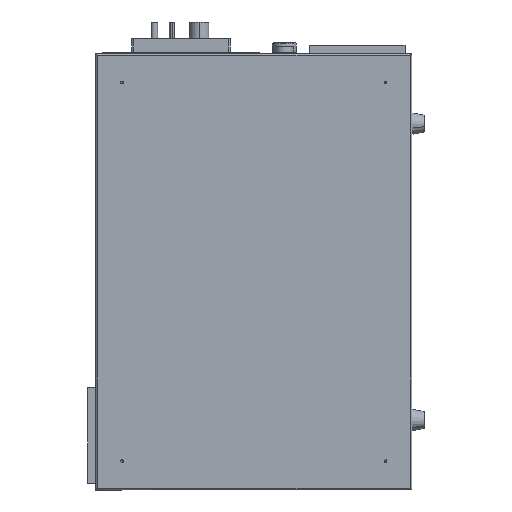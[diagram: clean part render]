
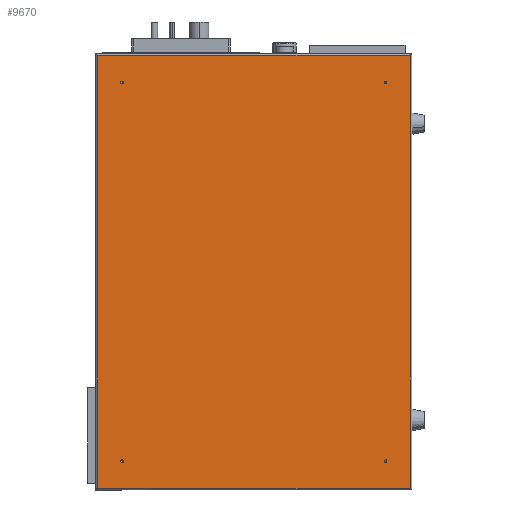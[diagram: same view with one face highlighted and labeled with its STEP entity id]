
A CAD part, front view. The second image highlights one B-rep face of the part: STEP entity #9670.
In plain terms, the highlighted planar face has unit normal (0, -1, 0).
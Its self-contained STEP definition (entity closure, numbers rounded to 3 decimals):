
#426 = EDGE_CURVE ( 'NONE', #7557, #8015, #5370, .T. ) ;
#435 = FACE_BOUND ( 'NONE', #4902, .T. ) ;
#562 = VERTEX_POINT ( 'NONE', #3598 ) ;
#580 = EDGE_CURVE ( 'NONE', #6128, #4621, #1821, .T. ) ;
#836 = AXIS2_PLACEMENT_3D ( 'NONE', #10296, #5368, #7006 ) ;
#1047 = CIRCLE ( 'NONE', #7521, 1.65 ) ;
#1060 = CARTESIAN_POINT ( 'NONE',  ( 189.76, -1.5, -262.76 ) ) ;
#1427 = CIRCLE ( 'NONE', #2246, 1.65 ) ;
#1499 = EDGE_CURVE ( 'NONE', #7576, #2128, #1047, .T. ) ;
#1561 = ORIENTED_EDGE ( 'NONE', *, *, #2083, .F. ) ;
#1650 = VECTOR ( 'NONE', #4617, 1000. ) ;
#1671 = CARTESIAN_POINT ( 'NONE',  ( -160.078, -1.5, -231.722 ) ) ;
#1696 = CIRCLE ( 'NONE', #2396, 1.65 ) ;
#1747 = EDGE_LOOP ( 'NONE', ( #6013, #1871 ) ) ;
#1787 = ORIENTED_EDGE ( 'NONE', *, *, #10443, .T. ) ;
#1821 = LINE ( 'NONE', #2248, #2607 ) ;
#1836 = CARTESIAN_POINT ( 'NONE',  ( -160.078, -1.5, -228.422 ) ) ;
#1838 = DIRECTION ( 'NONE',  ( 0., 0., -1. ) ) ;
#1871 = ORIENTED_EDGE ( 'NONE', *, *, #8430, .F. ) ;
#1886 = CARTESIAN_POINT ( 'NONE',  ( 159.922, -1.5, 229.928 ) ) ;
#1996 = DIRECTION ( 'NONE',  ( 0., 0., -1. ) ) ;
#2030 = VERTEX_POINT ( 'NONE', #1060 ) ;
#2050 = CARTESIAN_POINT ( 'NONE',  ( 159.922, -1.5, -230.072 ) ) ;
#2078 = CARTESIAN_POINT ( 'NONE',  ( 159.922, -1.5, -231.722 ) ) ;
#2083 = EDGE_CURVE ( 'NONE', #2128, #7576, #1427, .T. ) ;
#2128 = VERTEX_POINT ( 'NONE', #10334 ) ;
#2212 = FACE_BOUND ( 'NONE', #2928, .T. ) ;
#2246 = AXIS2_PLACEMENT_3D ( 'NONE', #10150, #2647, #10116 ) ;
#2248 = CARTESIAN_POINT ( 'NONE',  ( -192., -1.5, 262.76 ) ) ;
#2358 = ORIENTED_EDGE ( 'NONE', *, *, #3157, .F. ) ;
#2396 = AXIS2_PLACEMENT_3D ( 'NONE', #8299, #4265, #9196 ) ;
#2478 = DIRECTION ( 'NONE',  ( 0., 0., -1. ) ) ;
#2479 = EDGE_LOOP ( 'NONE', ( #10148, #7892, #1787, #7797 ) ) ;
#2607 = VECTOR ( 'NONE', #10651, 1000. ) ;
#2647 = DIRECTION ( 'NONE',  ( 0., -1., 0. ) ) ;
#2778 = CARTESIAN_POINT ( 'NONE',  ( 0., -1.5, 0. ) ) ;
#2928 = EDGE_LOOP ( 'NONE', ( #7778, #7097 ) ) ;
#3157 = EDGE_CURVE ( 'NONE', #8015, #7557, #1696, .T. ) ;
#3159 = DIRECTION ( 'NONE',  ( 0., -1., 0. ) ) ;
#3502 = DIRECTION ( 'NONE',  ( 0., -1., 0. ) ) ;
#3598 = CARTESIAN_POINT ( 'NONE',  ( 159.922, -1.5, -228.422 ) ) ;
#3658 = DIRECTION ( 'NONE',  ( 0., -1., 0. ) ) ;
#4265 = DIRECTION ( 'NONE',  ( 0., -1., 0. ) ) ;
#4617 = DIRECTION ( 'NONE',  ( 1., 0., 0. ) ) ;
#4621 = VERTEX_POINT ( 'NONE', #5199 ) ;
#4809 = AXIS2_PLACEMENT_3D ( 'NONE', #1886, #3658, #8497 ) ;
#4882 = DIRECTION ( 'NONE',  ( 0., 0., -1. ) ) ;
#4902 = EDGE_LOOP ( 'NONE', ( #2358, #5959 ) ) ;
#4956 = VECTOR ( 'NONE', #6926, 1000. ) ;
#5199 = CARTESIAN_POINT ( 'NONE',  ( -189.76, -1.5, 262.76 ) ) ;
#5223 = CIRCLE ( 'NONE', #4809, 1.65 ) ;
#5368 = DIRECTION ( 'NONE',  ( 0., -1., 0. ) ) ;
#5370 = CIRCLE ( 'NONE', #9099, 1.65 ) ;
#5455 = LINE ( 'NONE', #5561, #1650 ) ;
#5561 = CARTESIAN_POINT ( 'NONE',  ( 192., -1.5, -262.76 ) ) ;
#5564 = CARTESIAN_POINT ( 'NONE',  ( -160.078, -1.5, -230.072 ) ) ;
#5593 = DIRECTION ( 'NONE',  ( 0., -1., 0. ) ) ;
#5641 = CIRCLE ( 'NONE', #9133, 1.65 ) ;
#5814 = EDGE_CURVE ( 'NONE', #6547, #2030, #5455, .T. ) ;
#5959 = ORIENTED_EDGE ( 'NONE', *, *, #426, .F. ) ;
#6013 = ORIENTED_EDGE ( 'NONE', *, *, #9752, .F. ) ;
#6049 = DIRECTION ( 'NONE',  ( 0., -1., 0. ) ) ;
#6126 = FACE_BOUND ( 'NONE', #1747, .T. ) ;
#6128 = VERTEX_POINT ( 'NONE', #7721 ) ;
#6323 = AXIS2_PLACEMENT_3D ( 'NONE', #2050, #7232, #8883 ) ;
#6547 = VERTEX_POINT ( 'NONE', #7515 ) ;
#6707 = EDGE_CURVE ( 'NONE', #4621, #6547, #8882, .T. ) ;
#6926 = DIRECTION ( 'NONE',  ( 0., 0., 1. ) ) ;
#7006 = DIRECTION ( 'NONE',  ( 0., 0., -1. ) ) ;
#7097 = ORIENTED_EDGE ( 'NONE', *, *, #10497, .F. ) ;
#7128 = VERTEX_POINT ( 'NONE', #8066 ) ;
#7232 = DIRECTION ( 'NONE',  ( 0., -1., 0. ) ) ;
#7515 = CARTESIAN_POINT ( 'NONE',  ( -189.76, -1.5, -262.76 ) ) ;
#7519 = VERTEX_POINT ( 'NONE', #10211 ) ;
#7521 = AXIS2_PLACEMENT_3D ( 'NONE', #7703, #3502, #1838 ) ;
#7557 = VERTEX_POINT ( 'NONE', #1836 ) ;
#7576 = VERTEX_POINT ( 'NONE', #9435 ) ;
#7703 = CARTESIAN_POINT ( 'NONE',  ( -160.078, -1.5, 229.928 ) ) ;
#7721 = CARTESIAN_POINT ( 'NONE',  ( 189.76, -1.5, 262.76 ) ) ;
#7778 = ORIENTED_EDGE ( 'NONE', *, *, #10247, .F. ) ;
#7797 = ORIENTED_EDGE ( 'NONE', *, *, #580, .T. ) ;
#7892 = ORIENTED_EDGE ( 'NONE', *, *, #5814, .T. ) ;
#8007 = EDGE_LOOP ( 'NONE', ( #1561, #8851 ) ) ;
#8015 = VERTEX_POINT ( 'NONE', #1671 ) ;
#8044 = CIRCLE ( 'NONE', #6323, 1.65 ) ;
#8052 = DIRECTION ( 'NONE',  ( 0., 0., -1. ) ) ;
#8066 = CARTESIAN_POINT ( 'NONE',  ( 159.922, -1.5, 228.278 ) ) ;
#8097 = CARTESIAN_POINT ( 'NONE',  ( 159.922, -1.5, -230.072 ) ) ;
#8173 = FACE_OUTER_BOUND ( 'NONE', #2479, .T. ) ;
#8299 = CARTESIAN_POINT ( 'NONE',  ( -160.078, -1.5, -230.072 ) ) ;
#8418 = LINE ( 'NONE', #9304, #4956 ) ;
#8430 = EDGE_CURVE ( 'NONE', #562, #8496, #5641, .T. ) ;
#8496 = VERTEX_POINT ( 'NONE', #2078 ) ;
#8497 = DIRECTION ( 'NONE',  ( 0., 0., -1. ) ) ;
#8560 = FACE_BOUND ( 'NONE', #8007, .T. ) ;
#8851 = ORIENTED_EDGE ( 'NONE', *, *, #1499, .F. ) ;
#8882 = LINE ( 'NONE', #9449, #10065 ) ;
#8883 = DIRECTION ( 'NONE',  ( 0., 0., -1. ) ) ;
#9099 = AXIS2_PLACEMENT_3D ( 'NONE', #5564, #5593, #8052 ) ;
#9133 = AXIS2_PLACEMENT_3D ( 'NONE', #8097, #3159, #4882 ) ;
#9196 = DIRECTION ( 'NONE',  ( 0., 0., -1. ) ) ;
#9304 = CARTESIAN_POINT ( 'NONE',  ( 189.76, -1.5, 265. ) ) ;
#9312 = PLANE ( 'NONE',  #9986 ) ;
#9435 = CARTESIAN_POINT ( 'NONE',  ( -160.078, -1.5, 231.578 ) ) ;
#9449 = CARTESIAN_POINT ( 'NONE',  ( -189.76, -1.5, 0. ) ) ;
#9670 = ADVANCED_FACE ( 'NONE', ( #8560, #2212, #435, #6126, #8173 ), #9312, .T. ) ;
#9752 = EDGE_CURVE ( 'NONE', #8496, #562, #8044, .T. ) ;
#9986 = AXIS2_PLACEMENT_3D ( 'NONE', #2778, #6049, #2478 ) ;
#10065 = VECTOR ( 'NONE', #1996, 1000. ) ;
#10116 = DIRECTION ( 'NONE',  ( 0., 0., -1. ) ) ;
#10148 = ORIENTED_EDGE ( 'NONE', *, *, #6707, .T. ) ;
#10150 = CARTESIAN_POINT ( 'NONE',  ( -160.078, -1.5, 229.928 ) ) ;
#10211 = CARTESIAN_POINT ( 'NONE',  ( 159.922, -1.5, 231.578 ) ) ;
#10247 = EDGE_CURVE ( 'NONE', #7128, #7519, #10620, .T. ) ;
#10296 = CARTESIAN_POINT ( 'NONE',  ( 159.922, -1.5, 229.928 ) ) ;
#10334 = CARTESIAN_POINT ( 'NONE',  ( -160.078, -1.5, 228.278 ) ) ;
#10443 = EDGE_CURVE ( 'NONE', #2030, #6128, #8418, .T. ) ;
#10497 = EDGE_CURVE ( 'NONE', #7519, #7128, #5223, .T. ) ;
#10620 = CIRCLE ( 'NONE', #836, 1.65 ) ;
#10651 = DIRECTION ( 'NONE',  ( -1., 0., 0. ) ) ;
